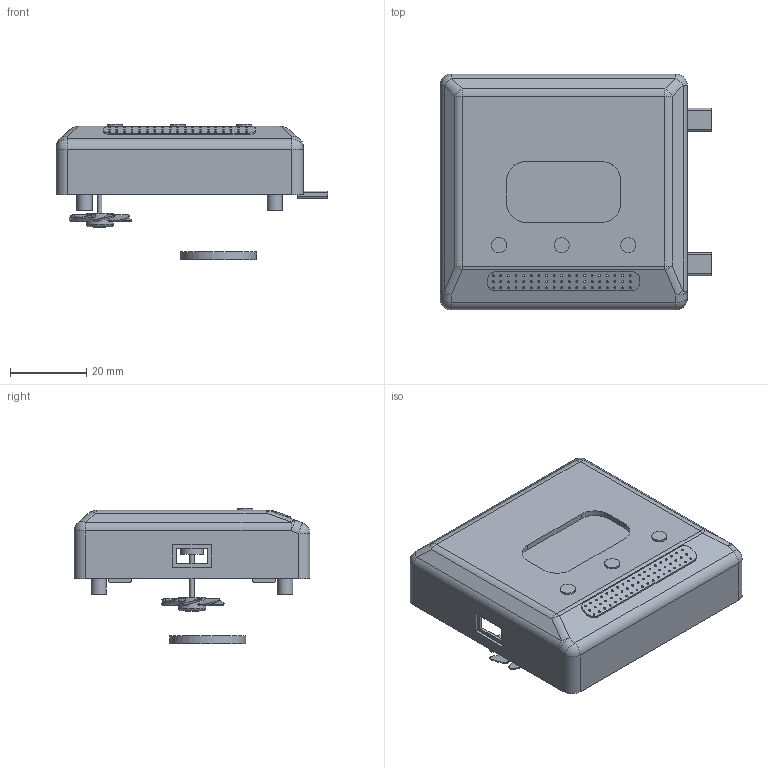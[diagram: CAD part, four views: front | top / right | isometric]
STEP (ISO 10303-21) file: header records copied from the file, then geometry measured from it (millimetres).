
FILE_DESCRIPTION(/* description */ (''),/* implementation_level */ '2;1');
FILE_NAME(/* name */ '样题1.stp',/* time_stamp */ '2021-03-16T13:15:28+08:00',/* author */ (''),/* organization */ (''),/* preprocessor_version */ 'ST-DEVELOPER v16',/* originating_system */ 'SIEMENS PLM Software NX 10.0',/* authorisation */ '');
FILE_SCHEMA (('AUTOMOTIVE_DESIGN { 1 0 10303 214 3 1 1 1 }'));
Length unit declared in the file: millimetre
Products named in the file (10): 电气元件; 外接件1; 前盖; 风扇; 风扇支柱; 电路板; 屏幕; 按钮; 喇叭; 样题1
Assembly tree (11 placements, depth 2):
  样题1
    喇叭
    按钮  x3
    屏幕
    电路板
    风扇支柱
    风扇
    前盖
    外接件1
    电气元件
Bounding box: 71.5 x 62 x 35.5 mm (x, y, z)
Volume: 14263.7 mm3; surface area: 21304.8 mm2
Topology: 12 solids, 13 shells, 412 faces, 1050 edges, 665 vertices
Faces by surface type: plane 170, cylinder 101, extrusion 57, bspline 56, sphere 27, torus 1
Full cylindrical faces by diameter (mm): 1.129 x2, 2 x4, 2.509 x1, 4 x10, 5.734 x1, 6 x1, 7.168 x1, 20 x1
Entity records: 27819 total; most frequent: CARTESIAN_POINT 18345, ORIENTED_EDGE 1872, DIRECTION 1674, EDGE_CURVE 936, VERTEX_POINT 646, EDGE_LOOP 628, AXIS2_PLACEMENT_3D 597, VECTOR 480
